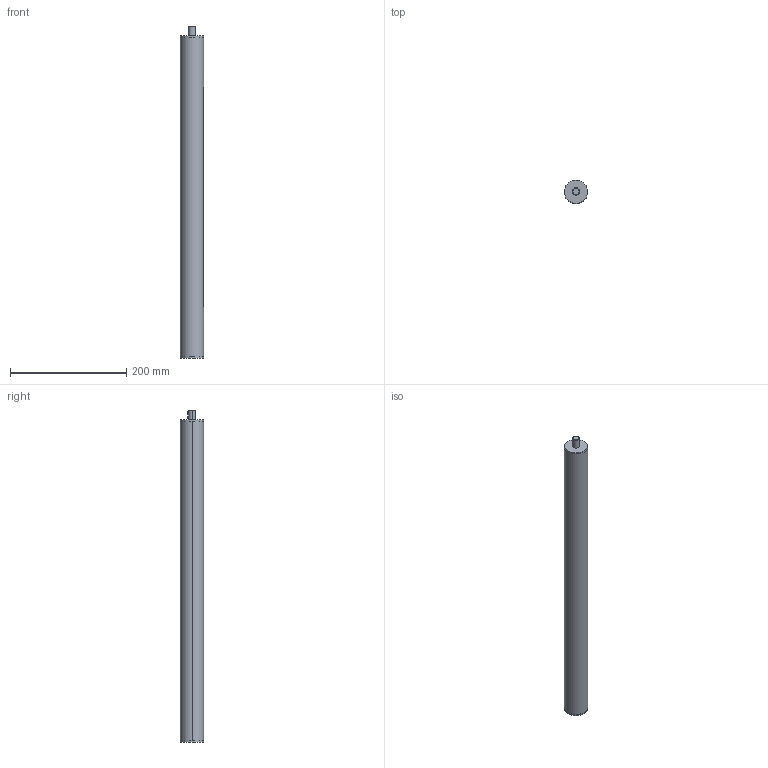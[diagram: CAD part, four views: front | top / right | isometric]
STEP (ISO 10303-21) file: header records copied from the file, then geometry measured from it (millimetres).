
FILE_DESCRIPTION (( 'STEP AP214' ), '1' );
FILE_NAME ('291-40-320-R1-SCR.step', '2023-08-30T05:21:05', ( '' ), ( '' ), 'SwSTEP 2.0', 'SolidWorks 2022', '' );
FILE_SCHEMA (( 'AUTOMOTIVE_DESIGN' ));
Length unit declared in the file: millimetre
Products named in the file (3): WB2910 mutter^WBVES_Tr20-M5; WB2910 Rund^WBVES_40-320-1; 291-40-320-R1-SCR
Assembly tree (2 placements, depth 2):
  291-40-320-R1-SCR
    WB2910 mutter^WBVES_Tr20-M5
    WB2910 Rund^WBVES_40-320-1
Bounding box: 40 x 40 x 572 mm (x, y, z)
Volume: 340490.5 mm3; surface area: 179003.9 mm2
Topology: 2 solids, 2 shells, 48 faces, 112 edges, 70 vertices
Faces by surface type: cylinder 25, plane 17, cone 6
Entity records: 1847 total; most frequent: CARTESIAN_POINT 426, DIRECTION 246, ORIENTED_EDGE 216, EDGE_CURVE 108, AXIS2_PLACEMENT_3D 96, VERTEX_POINT 70, EDGE_LOOP 58, VECTOR 54
